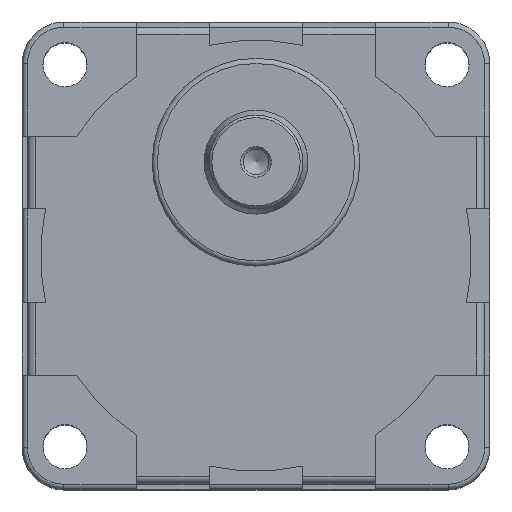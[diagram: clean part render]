
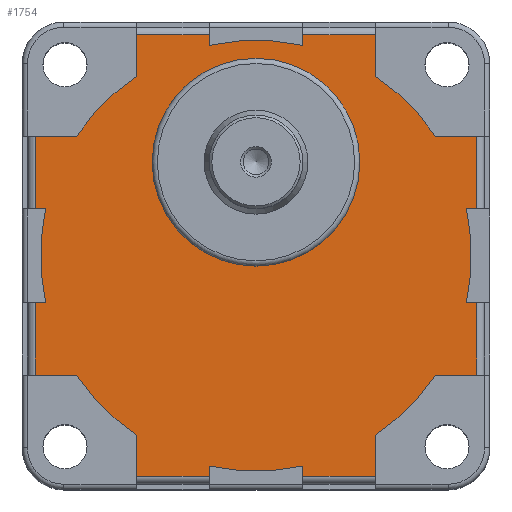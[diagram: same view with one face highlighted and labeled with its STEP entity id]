
A CAD part, top view. The second image highlights one B-rep face of the part: STEP entity #1754.
In plain terms, the highlighted planar face has unit normal (0, 0, 1).
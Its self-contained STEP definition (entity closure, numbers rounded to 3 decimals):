
#25=LINE('',#2666,#188);
#29=LINE('',#2678,#192);
#31=LINE('',#2684,#194);
#32=LINE('',#2688,#195);
#33=LINE('',#2690,#196);
#34=LINE('',#2692,#197);
#35=LINE('',#2696,#198);
#36=LINE('',#2698,#199);
#37=LINE('',#2700,#200);
#38=LINE('',#2704,#201);
#39=LINE('',#2706,#202);
#40=LINE('',#2708,#203);
#41=LINE('',#2712,#204);
#42=LINE('',#2714,#205);
#43=LINE('',#2716,#206);
#44=LINE('',#2720,#207);
#45=LINE('',#2722,#208);
#46=LINE('',#2724,#209);
#47=LINE('',#2728,#210);
#48=LINE('',#2730,#211);
#49=LINE('',#2732,#212);
#50=LINE('',#2735,#213);
#51=LINE('',#2737,#214);
#52=LINE('',#2740,#215);
#188=VECTOR('',#2129,14.);
#192=VECTOR('',#2139,14.);
#194=VECTOR('',#2145,7.957);
#195=VECTOR('',#2148,7.957);
#196=VECTOR('',#2149,14.);
#197=VECTOR('',#2150,1.988);
#198=VECTOR('',#2153,1.988);
#199=VECTOR('',#2154,14.);
#200=VECTOR('',#2155,7.957);
#201=VECTOR('',#2158,7.957);
#202=VECTOR('',#2159,14.);
#203=VECTOR('',#2160,1.988);
#204=VECTOR('',#2163,1.988);
#205=VECTOR('',#2164,14.);
#206=VECTOR('',#2165,7.957);
#207=VECTOR('',#2168,7.957);
#208=VECTOR('',#2169,14.);
#209=VECTOR('',#2170,1.988);
#210=VECTOR('',#2173,1.988);
#211=VECTOR('',#2174,14.);
#212=VECTOR('',#2175,7.957);
#213=VECTOR('',#2178,7.957);
#214=VECTOR('',#2179,1.988);
#215=VECTOR('',#2182,1.988);
#352=PLANE('',#1887);
#457=FACE_BOUND('',#610,.T.);
#487=FACE_OUTER_BOUND('',#609,.T.);
#609=EDGE_LOOP('',(#1276,#1277,#1278,#1279,#1280,#1281,#1282,#1283,#1284,
#1285,#1286,#1287,#1288,#1289,#1290,#1291,#1292,#1293,#1294,#1295,#1296,
#1297,#1298,#1299,#1300,#1301,#1302,#1303,#1304,#1305,#1306,#1307));
#610=EDGE_LOOP('',(#1308));
#723=CIRCLE('',#1878,20.);
#728=CIRCLE('',#1888,41.5);
#729=CIRCLE('',#1889,41.5);
#730=CIRCLE('',#1890,41.5);
#731=CIRCLE('',#1891,41.5);
#732=CIRCLE('',#1892,41.5);
#733=CIRCLE('',#1893,41.5);
#734=CIRCLE('',#1894,41.5);
#735=CIRCLE('',#1895,41.5);
#818=VERTEX_POINT('',#2655);
#819=VERTEX_POINT('',#2659);
#822=VERTEX_POINT('',#2664);
#826=VERTEX_POINT('',#2675);
#827=VERTEX_POINT('',#2677);
#829=VERTEX_POINT('',#2683);
#830=VERTEX_POINT('',#2685);
#831=VERTEX_POINT('',#2687);
#832=VERTEX_POINT('',#2689);
#833=VERTEX_POINT('',#2691);
#834=VERTEX_POINT('',#2693);
#835=VERTEX_POINT('',#2695);
#836=VERTEX_POINT('',#2697);
#837=VERTEX_POINT('',#2699);
#838=VERTEX_POINT('',#2701);
#839=VERTEX_POINT('',#2703);
#840=VERTEX_POINT('',#2705);
#841=VERTEX_POINT('',#2707);
#842=VERTEX_POINT('',#2709);
#843=VERTEX_POINT('',#2711);
#844=VERTEX_POINT('',#2713);
#845=VERTEX_POINT('',#2715);
#846=VERTEX_POINT('',#2717);
#847=VERTEX_POINT('',#2719);
#848=VERTEX_POINT('',#2721);
#849=VERTEX_POINT('',#2723);
#850=VERTEX_POINT('',#2725);
#851=VERTEX_POINT('',#2727);
#852=VERTEX_POINT('',#2729);
#853=VERTEX_POINT('',#2731);
#854=VERTEX_POINT('',#2733);
#855=VERTEX_POINT('',#2736);
#856=VERTEX_POINT('',#2738);
#993=EDGE_CURVE('',#818,#818,#723,.T.);
#997=EDGE_CURVE('',#822,#819,#25,.T.);
#1002=EDGE_CURVE('',#826,#827,#29,.T.);
#1005=EDGE_CURVE('',#822,#829,#31,.T.);
#1006=EDGE_CURVE('',#830,#829,#728,.T.);
#1007=EDGE_CURVE('',#831,#830,#32,.T.);
#1008=EDGE_CURVE('',#832,#831,#33,.T.);
#1009=EDGE_CURVE('',#833,#832,#34,.T.);
#1010=EDGE_CURVE('',#834,#833,#729,.T.);
#1011=EDGE_CURVE('',#834,#835,#35,.T.);
#1012=EDGE_CURVE('',#836,#835,#36,.T.);
#1013=EDGE_CURVE('',#836,#837,#37,.T.);
#1014=EDGE_CURVE('',#838,#837,#730,.T.);
#1015=EDGE_CURVE('',#839,#838,#38,.T.);
#1016=EDGE_CURVE('',#840,#839,#39,.T.);
#1017=EDGE_CURVE('',#841,#840,#40,.T.);
#1018=EDGE_CURVE('',#842,#841,#731,.T.);
#1019=EDGE_CURVE('',#842,#843,#41,.T.);
#1020=EDGE_CURVE('',#844,#843,#42,.T.);
#1021=EDGE_CURVE('',#844,#845,#43,.T.);
#1022=EDGE_CURVE('',#846,#845,#732,.T.);
#1023=EDGE_CURVE('',#847,#846,#44,.T.);
#1024=EDGE_CURVE('',#848,#847,#45,.T.);
#1025=EDGE_CURVE('',#849,#848,#46,.T.);
#1026=EDGE_CURVE('',#850,#849,#733,.T.);
#1027=EDGE_CURVE('',#850,#851,#47,.T.);
#1028=EDGE_CURVE('',#852,#851,#48,.T.);
#1029=EDGE_CURVE('',#852,#853,#49,.T.);
#1030=EDGE_CURVE('',#854,#853,#734,.T.);
#1031=EDGE_CURVE('',#827,#854,#50,.T.);
#1032=EDGE_CURVE('',#855,#826,#51,.T.);
#1033=EDGE_CURVE('',#856,#855,#735,.T.);
#1034=EDGE_CURVE('',#856,#819,#52,.T.);
#1276=ORIENTED_EDGE('',*,*,#997,.F.);
#1277=ORIENTED_EDGE('',*,*,#1005,.T.);
#1278=ORIENTED_EDGE('',*,*,#1006,.F.);
#1279=ORIENTED_EDGE('',*,*,#1007,.F.);
#1280=ORIENTED_EDGE('',*,*,#1008,.F.);
#1281=ORIENTED_EDGE('',*,*,#1009,.F.);
#1282=ORIENTED_EDGE('',*,*,#1010,.F.);
#1283=ORIENTED_EDGE('',*,*,#1011,.T.);
#1284=ORIENTED_EDGE('',*,*,#1012,.F.);
#1285=ORIENTED_EDGE('',*,*,#1013,.T.);
#1286=ORIENTED_EDGE('',*,*,#1014,.F.);
#1287=ORIENTED_EDGE('',*,*,#1015,.F.);
#1288=ORIENTED_EDGE('',*,*,#1016,.F.);
#1289=ORIENTED_EDGE('',*,*,#1017,.F.);
#1290=ORIENTED_EDGE('',*,*,#1018,.F.);
#1291=ORIENTED_EDGE('',*,*,#1019,.T.);
#1292=ORIENTED_EDGE('',*,*,#1020,.F.);
#1293=ORIENTED_EDGE('',*,*,#1021,.T.);
#1294=ORIENTED_EDGE('',*,*,#1022,.F.);
#1295=ORIENTED_EDGE('',*,*,#1023,.F.);
#1296=ORIENTED_EDGE('',*,*,#1024,.F.);
#1297=ORIENTED_EDGE('',*,*,#1025,.F.);
#1298=ORIENTED_EDGE('',*,*,#1026,.F.);
#1299=ORIENTED_EDGE('',*,*,#1027,.T.);
#1300=ORIENTED_EDGE('',*,*,#1028,.F.);
#1301=ORIENTED_EDGE('',*,*,#1029,.T.);
#1302=ORIENTED_EDGE('',*,*,#1030,.F.);
#1303=ORIENTED_EDGE('',*,*,#1031,.F.);
#1304=ORIENTED_EDGE('',*,*,#1002,.F.);
#1305=ORIENTED_EDGE('',*,*,#1032,.F.);
#1306=ORIENTED_EDGE('',*,*,#1033,.F.);
#1307=ORIENTED_EDGE('',*,*,#1034,.T.);
#1308=ORIENTED_EDGE('',*,*,#993,.F.);
#1754=ADVANCED_FACE('',(#487,#457),#352,.T.);
#1878=AXIS2_PLACEMENT_3D('',#2656,#2118,#2119);
#1887=AXIS2_PLACEMENT_3D('',#2682,#2143,#2144);
#1888=AXIS2_PLACEMENT_3D('',#2686,#2146,#2147);
#1889=AXIS2_PLACEMENT_3D('',#2694,#2151,#2152);
#1890=AXIS2_PLACEMENT_3D('',#2702,#2156,#2157);
#1891=AXIS2_PLACEMENT_3D('',#2710,#2161,#2162);
#1892=AXIS2_PLACEMENT_3D('',#2718,#2166,#2167);
#1893=AXIS2_PLACEMENT_3D('',#2726,#2171,#2172);
#1894=AXIS2_PLACEMENT_3D('',#2734,#2176,#2177);
#1895=AXIS2_PLACEMENT_3D('',#2739,#2180,#2181);
#2118=DIRECTION('center_axis',(0.,0.,1.));
#2119=DIRECTION('ref_axis',(-1.,0.,0.));
#2129=DIRECTION('',(0.,-1.,0.));
#2139=DIRECTION('',(0.,-1.,0.));
#2143=DIRECTION('center_axis',(0.,0.,1.));
#2144=DIRECTION('ref_axis',(1.,0.,0.));
#2145=DIRECTION('',(-1.,0.,0.));
#2146=DIRECTION('center_axis',(0.,0.,-1.));
#2147=DIRECTION('ref_axis',(-1.,0.,0.));
#2148=DIRECTION('',(0.,-1.,0.));
#2149=DIRECTION('',(1.,0.,0.));
#2150=DIRECTION('',(0.,1.,0.));
#2151=DIRECTION('center_axis',(0.,0.,-1.));
#2152=DIRECTION('ref_axis',(-1.,0.,0.));
#2153=DIRECTION('',(0.,1.,0.));
#2154=DIRECTION('',(1.,0.,0.));
#2155=DIRECTION('',(0.,-1.,0.));
#2156=DIRECTION('center_axis',(0.,0.,-1.));
#2157=DIRECTION('ref_axis',(-1.,0.,0.));
#2158=DIRECTION('',(1.,0.,0.));
#2159=DIRECTION('',(0.,1.,0.));
#2160=DIRECTION('',(-1.,0.,0.));
#2161=DIRECTION('center_axis',(0.,0.,-1.));
#2162=DIRECTION('ref_axis',(-1.,0.,0.));
#2163=DIRECTION('',(-1.,0.,0.));
#2164=DIRECTION('',(0.,1.,0.));
#2165=DIRECTION('',(1.,0.,0.));
#2166=DIRECTION('center_axis',(0.,0.,-1.));
#2167=DIRECTION('ref_axis',(-1.,0.,0.));
#2168=DIRECTION('',(0.,1.,0.));
#2169=DIRECTION('',(-1.,0.,0.));
#2170=DIRECTION('',(0.,-1.,0.));
#2171=DIRECTION('center_axis',(0.,0.,-1.));
#2172=DIRECTION('ref_axis',(-1.,0.,0.));
#2173=DIRECTION('',(0.,-1.,0.));
#2174=DIRECTION('',(-1.,0.,0.));
#2175=DIRECTION('',(0.,1.,0.));
#2176=DIRECTION('center_axis',(0.,0.,-1.));
#2177=DIRECTION('ref_axis',(-1.,0.,0.));
#2178=DIRECTION('',(-1.,0.,0.));
#2179=DIRECTION('',(1.,0.,0.));
#2180=DIRECTION('center_axis',(0.,0.,-1.));
#2181=DIRECTION('ref_axis',(-1.,0.,0.));
#2182=DIRECTION('',(1.,0.,0.));
#2655=CARTESIAN_POINT('',(20.,18.,63.2));
#2656=CARTESIAN_POINT('Origin',(0.,18.,63.2));
#2659=CARTESIAN_POINT('',(42.5,9.,63.2));
#2664=CARTESIAN_POINT('',(42.5,23.,63.2));
#2666=CARTESIAN_POINT('',(42.5,11.5,63.2));
#2675=CARTESIAN_POINT('',(42.5,-9.,63.2));
#2677=CARTESIAN_POINT('',(42.5,-23.,63.2));
#2678=CARTESIAN_POINT('',(42.5,-11.5,63.2));
#2682=CARTESIAN_POINT('Origin',(0.,0.,
63.2));
#2683=CARTESIAN_POINT('',(34.543,23.,63.2));
#2684=CARTESIAN_POINT('',(34.543,23.,63.2));
#2685=CARTESIAN_POINT('',(23.,34.543,63.2));
#2686=CARTESIAN_POINT('Origin',(0.,0.,63.2));
#2687=CARTESIAN_POINT('',(23.,42.5,63.2));
#2688=CARTESIAN_POINT('',(23.,34.543,63.2));
#2689=CARTESIAN_POINT('',(9.,42.5,63.2));
#2690=CARTESIAN_POINT('',(11.5,42.5,63.2));
#2691=CARTESIAN_POINT('',(9.,40.512,63.2));
#2692=CARTESIAN_POINT('',(9.,45.,63.2));
#2693=CARTESIAN_POINT('',(-9.,40.512,63.2));
#2694=CARTESIAN_POINT('Origin',(0.,0.,63.2));
#2695=CARTESIAN_POINT('',(-9.,42.5,63.2));
#2696=CARTESIAN_POINT('',(-9.,45.,63.2));
#2697=CARTESIAN_POINT('',(-23.,42.5,63.2));
#2698=CARTESIAN_POINT('',(-11.5,42.5,63.2));
#2699=CARTESIAN_POINT('',(-23.,34.543,63.2));
#2700=CARTESIAN_POINT('',(-23.,34.543,63.2));
#2701=CARTESIAN_POINT('',(-34.543,23.,63.2));
#2702=CARTESIAN_POINT('Origin',(0.,0.,63.2));
#2703=CARTESIAN_POINT('',(-42.5,23.,63.2));
#2704=CARTESIAN_POINT('',(-34.543,23.,63.2));
#2705=CARTESIAN_POINT('',(-42.5,9.,63.2));
#2706=CARTESIAN_POINT('',(-42.5,11.5,63.2));
#2707=CARTESIAN_POINT('',(-40.512,9.,63.2));
#2708=CARTESIAN_POINT('',(-45.,9.,63.2));
#2709=CARTESIAN_POINT('',(-40.512,-9.,63.2));
#2710=CARTESIAN_POINT('Origin',(0.,0.,63.2));
#2711=CARTESIAN_POINT('',(-42.5,-9.,63.2));
#2712=CARTESIAN_POINT('',(-45.,-9.,63.2));
#2713=CARTESIAN_POINT('',(-42.5,-23.,63.2));
#2714=CARTESIAN_POINT('',(-42.5,-11.5,63.2));
#2715=CARTESIAN_POINT('',(-34.543,-23.,63.2));
#2716=CARTESIAN_POINT('',(-34.543,-23.,63.2));
#2717=CARTESIAN_POINT('',(-23.,-34.543,63.2));
#2718=CARTESIAN_POINT('Origin',(0.,0.,63.2));
#2719=CARTESIAN_POINT('',(-23.,-42.5,63.2));
#2720=CARTESIAN_POINT('',(-23.,-34.543,63.2));
#2721=CARTESIAN_POINT('',(-9.,-42.5,63.2));
#2722=CARTESIAN_POINT('',(-11.5,-42.5,63.2));
#2723=CARTESIAN_POINT('',(-9.,-40.512,63.2));
#2724=CARTESIAN_POINT('',(-9.,-45.,63.2));
#2725=CARTESIAN_POINT('',(9.,-40.512,63.2));
#2726=CARTESIAN_POINT('Origin',(0.,0.,63.2));
#2727=CARTESIAN_POINT('',(9.,-42.5,63.2));
#2728=CARTESIAN_POINT('',(9.,-45.,63.2));
#2729=CARTESIAN_POINT('',(23.,-42.5,63.2));
#2730=CARTESIAN_POINT('',(11.5,-42.5,63.2));
#2731=CARTESIAN_POINT('',(23.,-34.543,63.2));
#2732=CARTESIAN_POINT('',(23.,-34.543,63.2));
#2733=CARTESIAN_POINT('',(34.543,-23.,63.2));
#2734=CARTESIAN_POINT('Origin',(0.,0.,63.2));
#2735=CARTESIAN_POINT('',(34.543,-23.,63.2));
#2736=CARTESIAN_POINT('',(40.512,-9.,63.2));
#2737=CARTESIAN_POINT('',(45.,-9.,63.2));
#2738=CARTESIAN_POINT('',(40.512,9.,63.2));
#2739=CARTESIAN_POINT('Origin',(0.,0.,63.2));
#2740=CARTESIAN_POINT('',(45.,9.,63.2));
